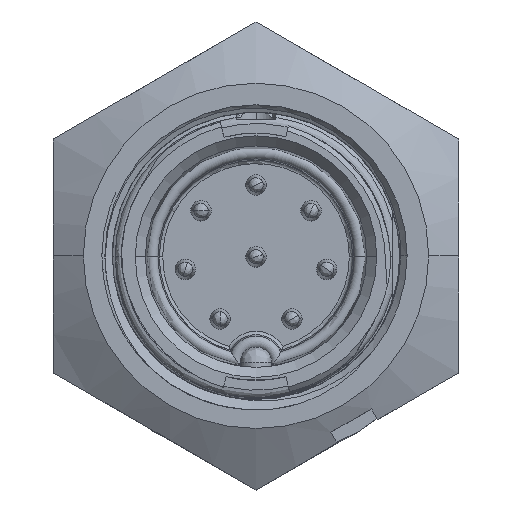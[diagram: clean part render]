
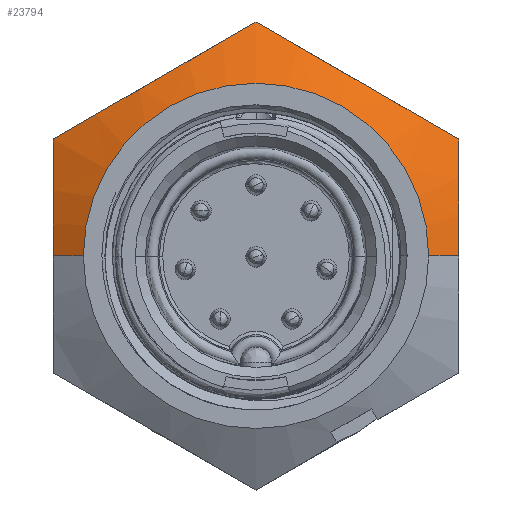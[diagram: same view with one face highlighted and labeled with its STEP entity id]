
A CAD part, top view. The second image highlights one B-rep face of the part: STEP entity #23794.
In plain terms, the highlighted conical face has half-angle 60 degrees and reference radius 11.934 mm.
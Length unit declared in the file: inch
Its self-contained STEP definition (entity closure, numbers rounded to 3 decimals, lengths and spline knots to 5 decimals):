
#403 = EDGE_CURVE ( 'NONE', #31696, #16675, #19597, .T. ) ;
#589 = B_SPLINE_CURVE_WITH_KNOTS ( 'NONE', 3,
 ( #31657, #31620, #31578, #31826, #31861, #31870, #31945, #31982, #32013, #32022, #32060, #32107 ),
 .UNSPECIFIED., .F., .F.,
 ( 4, 2, 2, 2, 2, 4 ),
 ( 0., 0.00301, 0.00602, 0.00752, 0.00903, 0.01203 ),
 .UNSPECIFIED. ) ;
#2117 = EDGE_CURVE ( 'NONE', #22450, #21867, #589, .T. ) ;
#2359 = VECTOR ( 'NONE', #25172, 39.37008 ) ;
#2740 = EDGE_LOOP ( 'NONE', ( #28423, #18954, #21700, #30481, #19413, #18016, #6594 ) ) ;
#2938 = DIRECTION ( 'NONE',  ( -1., 0., 0. ) ) ;
#2944 = DIRECTION ( 'NONE',  ( 0., 0., -1. ) ) ;
#2976 = CARTESIAN_POINT ( 'NONE',  ( 0., 0., 1.391 ) ) ;
#3526 = EDGE_CURVE ( 'NONE', #17438, #16675, #28442, .T. ) ;
#6594 = ORIENTED_EDGE ( 'NONE', *, *, #403, .F. ) ;
#7425 = CARTESIAN_POINT ( 'NONE',  ( -0.34612, 0., 1.391 ) ) ;
#7776 = FACE_OUTER_BOUND ( 'NONE', #2740, .T. ) ;
#7804 = CARTESIAN_POINT ( 'NONE',  ( -0.40625, 0.23455, 1.32 ) ) ;
#7807 = CARTESIAN_POINT ( 'NONE',  ( -0.37304, 0.25372, 1.33107 ) ) ;
#7830 = CARTESIAN_POINT ( 'NONE',  ( -0.33956, 0.27305, 1.3402 ) ) ;
#7872 = CARTESIAN_POINT ( 'NONE',  ( -0.28872, 0.3024, 1.34969 ) ) ;
#7875 = CARTESIAN_POINT ( 'NONE',  ( -0.27168, 0.31224, 1.35214 ) ) ;
#7913 = CARTESIAN_POINT ( 'NONE',  ( -0.23736, 0.33206, 1.35545 ) ) ;
#7918 = CARTESIAN_POINT ( 'NONE',  ( -0.22001, 0.34208, 1.3563 ) ) ;
#7945 = CARTESIAN_POINT ( 'NONE',  ( -0.1682, 0.37199, 1.35626 ) ) ;
#7981 = CARTESIAN_POINT ( 'NONE',  ( -0.13409, 0.39168, 1.35279 ) ) ;
#7984 = CARTESIAN_POINT ( 'NONE',  ( -0.06657, 0.43066, 1.34017 ) ) ;
#8135 = CARTESIAN_POINT ( 'NONE',  ( 0., 0.4691, 1.32 ) ) ;
#8203 = CARTESIAN_POINT ( 'NONE',  ( -0.03317, 0.44995, 1.33106 ) ) ;
#8443 = CARTESIAN_POINT ( 'NONE',  ( 0.46983, 0., 1.31957 ) ) ;
#8625 = CONICAL_SURFACE ( 'NONE', #10306, 0.46983, 1.047 ) ;
#8724 = B_SPLINE_CURVE_WITH_KNOTS ( 'NONE', 3,
 ( #8135, #8203, #7984, #7981, #7945, #7918, #7913, #7875, #7872, #7830, #7807, #7804 ),
 .UNSPECIFIED., .F., .F.,
 ( 4, 2, 2, 2, 2, 4 ),
 ( 0., 0.00301, 0.00602, 0.00752, 0.00903, 0.01203 ),
 .UNSPECIFIED. ) ;
#9002 = EDGE_CURVE ( 'NONE', #31696, #25463, #25788, .T. ) ;
#9441 = AXIS2_PLACEMENT_3D ( 'NONE', #2976, #2944, #2938 ) ;
#10306 = AXIS2_PLACEMENT_3D ( 'NONE', #22149, #22024, #21643 ) ;
#10352 = B_SPLINE_CURVE_WITH_KNOTS ( 'NONE', 3,
 ( #21485, #21021, #20509, #20436, #20401, #20336, #20295, #20222 ),
 .UNSPECIFIED., .F., .F.,
 ( 4, 2, 2, 4 ),
 ( 0.00603, 0.00753, 0.00903, 0.01203 ),
 .UNSPECIFIED. ) ;
#11900 = CARTESIAN_POINT ( 'NONE',  ( 0.40625, 0., 1.35628 ) ) ;
#14287 = CARTESIAN_POINT ( 'NONE',  ( 0., 0.4691, 1.32 ) ) ;
#15943 = CARTESIAN_POINT ( 'NONE',  ( -0.40625, 0.23455, 1.32 ) ) ;
#16609 = LINE ( 'NONE', #8443, #2359 ) ;
#16675 = VERTEX_POINT ( 'NONE', #17331 ) ;
#17331 = CARTESIAN_POINT ( 'NONE',  ( -0.40625, 0., 1.35628 ) ) ;
#17438 = VERTEX_POINT ( 'NONE', #15943 ) ;
#17846 = VERTEX_POINT ( 'NONE', #11900 ) ;
#18016 = ORIENTED_EDGE ( 'NONE', *, *, #3526, .T. ) ;
#18954 = ORIENTED_EDGE ( 'NONE', *, *, #20328, .T. ) ;
#19413 = ORIENTED_EDGE ( 'NONE', *, *, #33050, .T. ) ;
#19597 = LINE ( 'NONE', #30875, #19635 ) ;
#19635 = VECTOR ( 'NONE', #20526, 39.37008 ) ;
#20222 = CARTESIAN_POINT ( 'NONE',  ( 0.40625, 0.23455, 1.32 ) ) ;
#20295 = CARTESIAN_POINT ( 'NONE',  ( 0.40625, 0.19628, 1.33105 ) ) ;
#20328 = EDGE_CURVE ( 'NONE', #25463, #17846, #16609, .T. ) ;
#20336 = CARTESIAN_POINT ( 'NONE',  ( 0.40625, 0.15768, 1.34017 ) ) ;
#20401 = CARTESIAN_POINT ( 'NONE',  ( 0.40625, 0.0991, 1.34965 ) ) ;
#20436 = CARTESIAN_POINT ( 'NONE',  ( 0.40625, 0.07945, 1.35211 ) ) ;
#20509 = CARTESIAN_POINT ( 'NONE',  ( 0.40625, 0.0399, 1.35543 ) ) ;
#20526 = DIRECTION ( 'NONE',  ( -0.866, 0., -0.5 ) ) ;
#21021 = CARTESIAN_POINT ( 'NONE',  ( 0.40625, 0.01991, 1.35628 ) ) ;
#21297 = CARTESIAN_POINT ( 'NONE',  ( 0.40625, 0.23455, 1.32 ) ) ;
#21485 = CARTESIAN_POINT ( 'NONE',  ( 0.40625, 0., 1.35628 ) ) ;
#21643 = DIRECTION ( 'NONE',  ( -1., 0., 0. ) ) ;
#21700 = ORIENTED_EDGE ( 'NONE', *, *, #22478, .T. ) ;
#21867 = VERTEX_POINT ( 'NONE', #14287 ) ;
#22024 = DIRECTION ( 'NONE',  ( 0., 0., -1. ) ) ;
#22051 = CARTESIAN_POINT ( 'NONE',  ( -0.40625, 0., 1.35628 ) ) ;
#22057 = CARTESIAN_POINT ( 'NONE',  ( -0.40625, 0.03996, 1.35628 ) ) ;
#22090 = CARTESIAN_POINT ( 'NONE',  ( -0.40625, 0.07942, 1.35283 ) ) ;
#22099 = CARTESIAN_POINT ( 'NONE',  ( -0.40625, 0.23455, 1.32 ) ) ;
#22145 = CARTESIAN_POINT ( 'NONE',  ( -0.40625, 0.15753, 1.3402 ) ) ;
#22149 = CARTESIAN_POINT ( 'NONE',  ( 0., 0., 1.31957 ) ) ;
#22450 = VERTEX_POINT ( 'NONE', #21297 ) ;
#22478 = EDGE_CURVE ( 'NONE', #17846, #22450, #10352, .T. ) ;
#22520 = CARTESIAN_POINT ( 'NONE',  ( -0.40625, 0.19618, 1.33108 ) ) ;
#23794 = ADVANCED_FACE ( 'NONE', ( #7776 ), #8625, .T. ) ;
#24996 = CARTESIAN_POINT ( 'NONE',  ( 0.34612, 0., 1.391 ) ) ;
#25172 = DIRECTION ( 'NONE',  ( 0.866, 0., -0.5 ) ) ;
#25463 = VERTEX_POINT ( 'NONE', #24996 ) ;
#25788 = CIRCLE ( 'NONE', #9441, 0.34612 ) ;
#28423 = ORIENTED_EDGE ( 'NONE', *, *, #9002, .T. ) ;
#28442 = B_SPLINE_CURVE_WITH_KNOTS ( 'NONE', 3,
 ( #22099, #22520, #22145, #22090, #22057, #22051 ),
 .UNSPECIFIED., .F., .F.,
 ( 4, 2, 4 ),
 ( 0., 0.00301, 0.00603 ),
 .UNSPECIFIED. ) ;
#30481 = ORIENTED_EDGE ( 'NONE', *, *, #2117, .T. ) ;
#30875 = CARTESIAN_POINT ( 'NONE',  ( -0.46983, 0., 1.31957 ) ) ;
#31578 = CARTESIAN_POINT ( 'NONE',  ( 0.33968, 0.27299, 1.34017 ) ) ;
#31620 = CARTESIAN_POINT ( 'NONE',  ( 0.37308, 0.2537, 1.33106 ) ) ;
#31657 = CARTESIAN_POINT ( 'NONE',  ( 0.40625, 0.23455, 1.32 ) ) ;
#31696 = VERTEX_POINT ( 'NONE', #7425 ) ;
#31826 = CARTESIAN_POINT ( 'NONE',  ( 0.27216, 0.31196, 1.35279 ) ) ;
#31861 = CARTESIAN_POINT ( 'NONE',  ( 0.23805, 0.33166, 1.35626 ) ) ;
#31870 = CARTESIAN_POINT ( 'NONE',  ( 0.18624, 0.36157, 1.3563 ) ) ;
#31945 = CARTESIAN_POINT ( 'NONE',  ( 0.16889, 0.37159, 1.35545 ) ) ;
#31982 = CARTESIAN_POINT ( 'NONE',  ( 0.13457, 0.3914, 1.35214 ) ) ;
#32013 = CARTESIAN_POINT ( 'NONE',  ( 0.11753, 0.40124, 1.34969 ) ) ;
#32022 = CARTESIAN_POINT ( 'NONE',  ( 0.06669, 0.43059, 1.3402 ) ) ;
#32060 = CARTESIAN_POINT ( 'NONE',  ( 0.03321, 0.44992, 1.33107 ) ) ;
#32107 = CARTESIAN_POINT ( 'NONE',  ( 0., 0.4691, 1.32 ) ) ;
#33050 = EDGE_CURVE ( 'NONE', #21867, #17438, #8724, .T. ) ;
